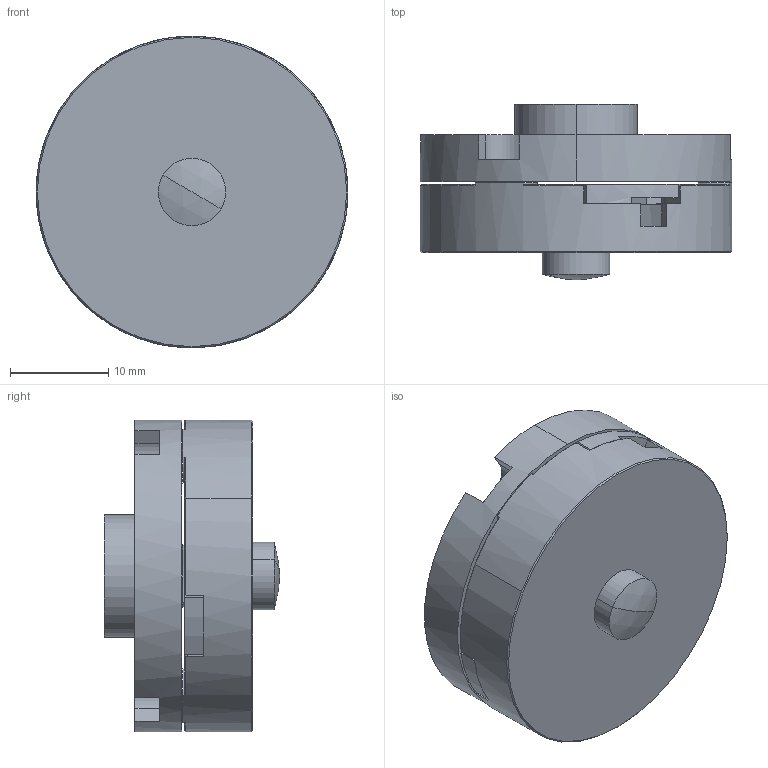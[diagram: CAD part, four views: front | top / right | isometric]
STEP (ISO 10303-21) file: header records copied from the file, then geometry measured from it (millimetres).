
FILE_DESCRIPTION (( 'STEP AP203' ), '1' );
FILE_NAME ('iload-mini-dome-with-ix125.STEP', '2012-04-30T20:54:55', ( '' ), ( '' ), 'SwSTEP 2.0', 'SolidWorks 2009', '' );
FILE_SCHEMA (( 'CONFIG_CONTROL_DESIGN' ));
Length unit declared in the file: inch
Products named in the file (1): iload-mini-dome-with-ix125
Bounding box: 31.75 x 17.88 x 31.75 mm (x, y, z)
Surface area: 4451.4 mm2 (no closed solid volume)
Topology: 0 solids, 3 shells, 122 faces, 389 edges, 270 vertices
Faces by surface type: cylinder 51, plane 37, cone 32, sphere 2
Entity records: 4490 total; most frequent: CARTESIAN_POINT 944, DIRECTION 764, ORIENTED_EDGE 651, EDGE_CURVE 389, AXIS2_PLACEMENT_3D 298, VERTEX_POINT 270, CIRCLE 175, LINE 168
